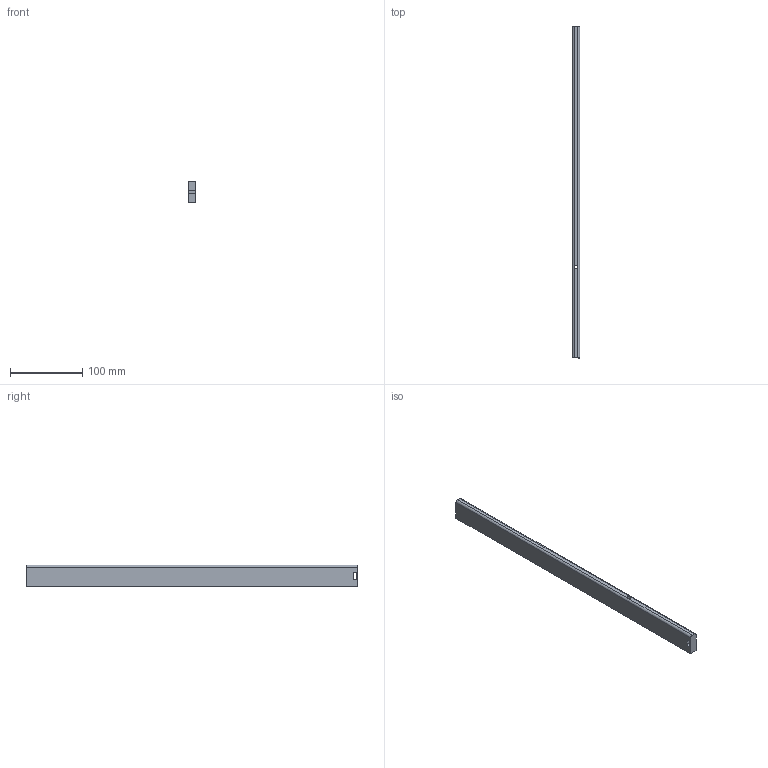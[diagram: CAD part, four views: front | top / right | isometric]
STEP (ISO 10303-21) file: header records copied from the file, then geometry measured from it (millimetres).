
FILE_DESCRIPTION (( 'STEP AP214' ), '1' );
FILE_NAME ('_Seitenreling_S760610200_RL460.step', '2010-09-06T14:51:45', ( 'grass' ), ( '' ), 'SwSTEP 2.0', 'SolidWorks 2010', '' );
FILE_SCHEMA (( 'AUTOMOTIVE_DESIGN' ));
Length unit declared in the file: millimetre
Products named in the file (1): _Seitenreling_S760610200_RL460
Bounding box: 10.5 x 460 x 30 mm (x, y, z)
Volume: 141735.4 mm3; surface area: 37416.7 mm2
Topology: 1 solids, 1 shells, 18 faces, 46 edges, 30 vertices
Faces by surface type: plane 10, cylinder 8
Entity records: 594 total; most frequent: DIRECTION 102, CARTESIAN_POINT 95, ORIENTED_EDGE 92, EDGE_CURVE 46, AXIS2_PLACEMENT_3D 37, VERTEX_POINT 30, VECTOR 28, LINE 28
